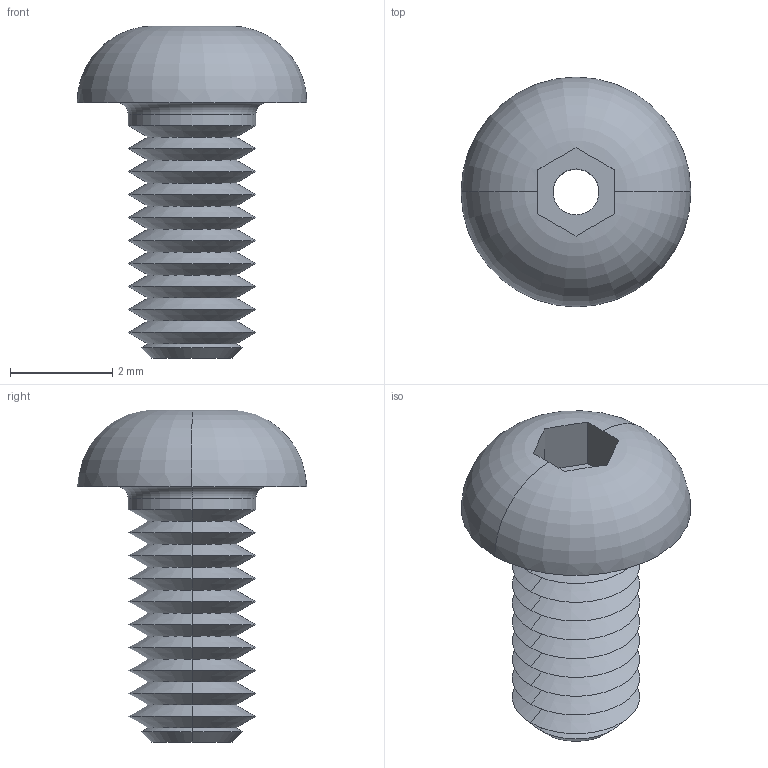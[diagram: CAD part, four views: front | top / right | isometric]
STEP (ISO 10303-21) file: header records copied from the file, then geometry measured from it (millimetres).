
FILE_DESCRIPTION (( 'STEP AP203' ), '1' );
FILE_NAME ('P0094.025-005-A2.step', '2019-07-12T16:50:05', ( '' ), ( '' ), 'SwSTEP 2.0', 'SolidWorks 2017', '' );
FILE_SCHEMA (( 'CONFIG_CONTROL_DESIGN' ));
Length unit declared in the file: millimetre
Products named in the file (1): P0094.025-005-A2
Bounding box: 4.5 x 4.5 x 6.5 mm (x, y, z)
Volume: 30.7 mm3; surface area: 121.5 mm2
Topology: 1 solids, 1 shells, 59 faces, 124 edges, 68 vertices
Faces by surface type: cone 42, plane 9, cylinder 4, torus 4
Entity records: 1645 total; most frequent: DIRECTION 294, CARTESIAN_POINT 288, ORIENTED_EDGE 248, EDGE_CURVE 124, AXIS2_PLACEMENT_3D 118, VERTEX_POINT 68, EDGE_LOOP 62, FACE_OUTER_BOUND 59
